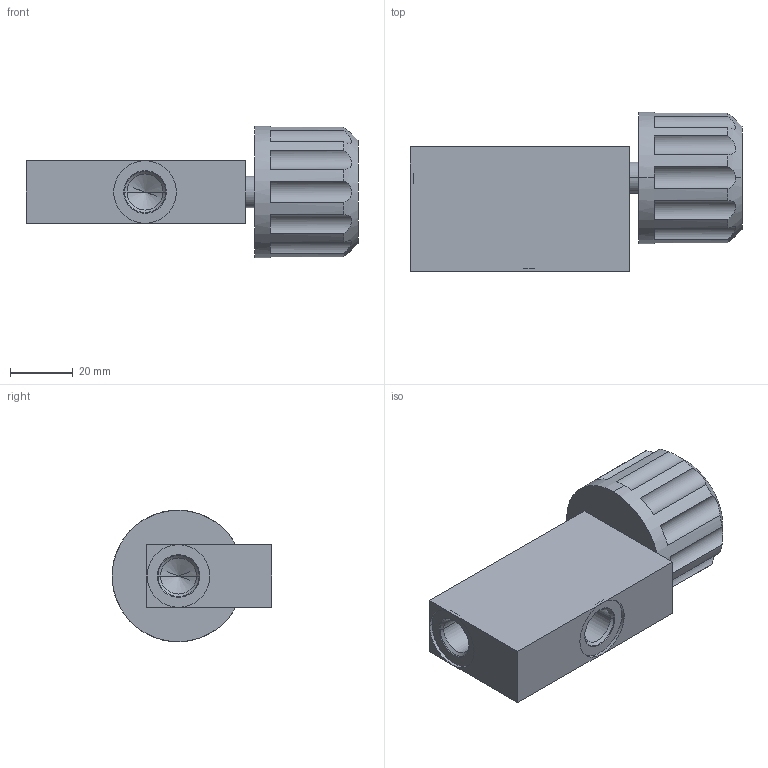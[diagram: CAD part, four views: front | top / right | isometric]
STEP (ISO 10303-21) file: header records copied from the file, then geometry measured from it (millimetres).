
FILE_DESCRIPTION((''),'2;1');
FILE_NAME('VSO1-04_R3_5_OS','2014-08-25T',('j.koudelka'),(''),'PRO/ENGINEER BY PARAMETRIC TECHNOLOGY CORPORATION, 2014090','PRO/ENGINEER BY PARAMETRIC TECHNOLOGY CORPORATION, 2014090','');
FILE_SCHEMA(('AUTOMOTIVE_DESIGN { 1 0 10303 214 1 1 1 1 }'));
Length unit declared in the file: millimetre
Products named in the file (1): VSO1-04_R3_5_OS
Bounding box: 106 x 51 x 42 mm (x, y, z)
Volume: 93036.2 mm3; surface area: 19511.1 mm2
Topology: 1 solids, 3 shells, 64 faces, 181 edges, 136 vertices
Faces by surface type: cylinder 28, plane 26, cone 10
Entity records: 3534 total; most frequent: CARTESIAN_POINT 796, DIRECTION 399, ORIENTED_EDGE 316, PRESENTATION_STYLE_ASSIGNMENT 223, STYLED_ITEM 193, CURVE_STYLE 190, EDGE_CURVE 162, AXIS2_PLACEMENT_3D 159
